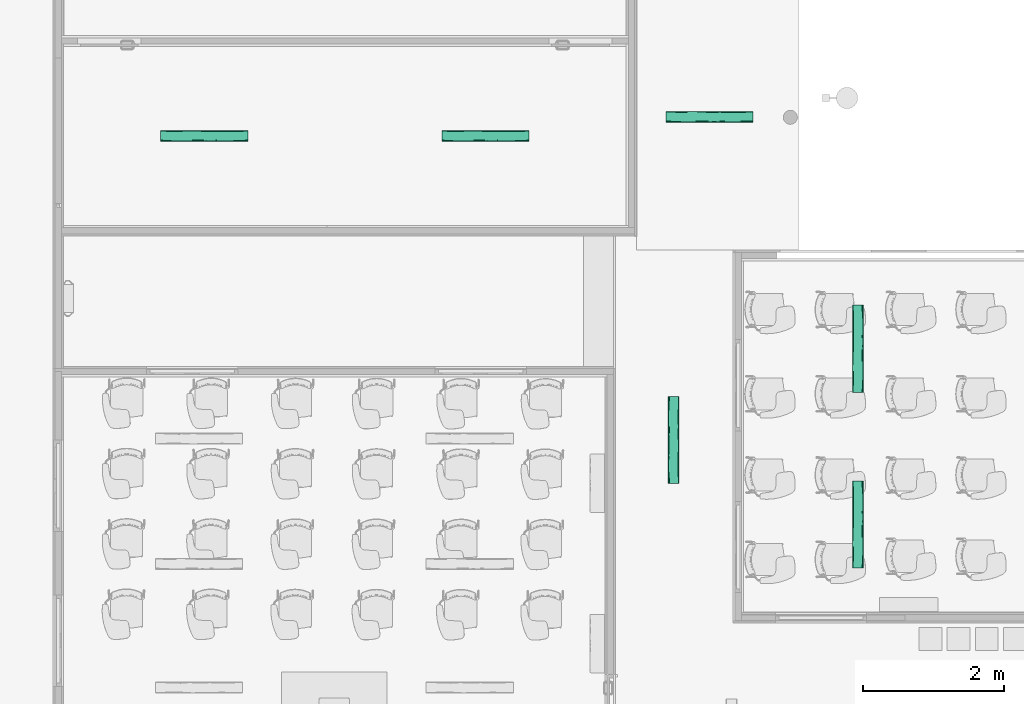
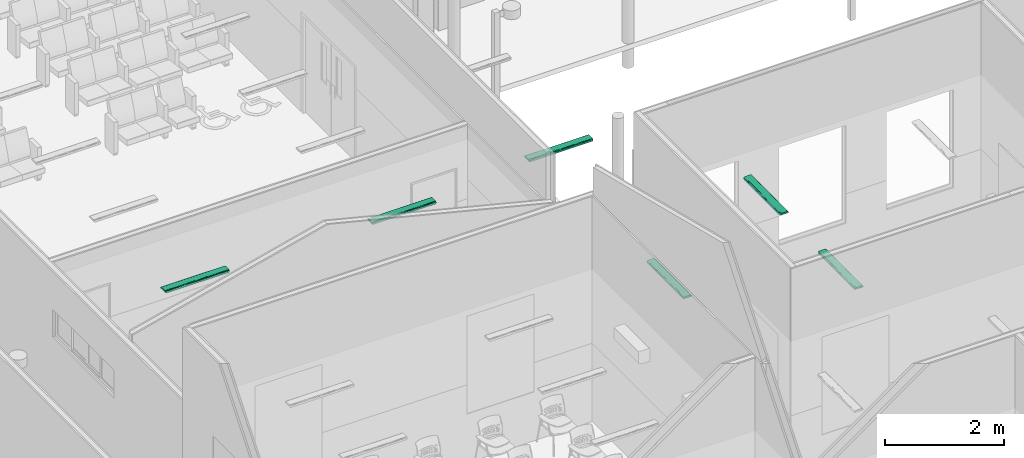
# One storey, part 54 of 155: 6 flow terminals.
"""IFC2X3 building model written with IfcOpenShell, lengths in metres."""

import ifcopenshell
import ifcopenshell.guid

model = None  # the IFC model being written
_history = None  # IfcOwnerHistory: only IFC2X3 demands one
_inside = {}  # id of a spatial element -> (the spatial element, [elements in it])
_under = {}  # id of a project, library or spatial element -> (it, [spatial elements below it])
_declared = {}  # id of a project -> (the project, [libraries it declares])
_typed = {}  # id of a type object -> (the type object, [elements of that type])
_made_of = {}  # id of a material, layer set ... -> (it, [elements and type objects made of it])


def new_model(schema):
    """Start an empty IFC model of exactly this schema.

    Asked for "IFC4X3", IfcOpenShell would pick the latest addendum, in which some entities
    have other attributes; the version numbers below select the first issue.
    IFC2X3 requires an IfcOwnerHistory on every rooted entity: one is made here for all.
    """
    global model, _history
    if schema == "IFC4X3":
        model = ifcopenshell.file(schema_version=(4, 3, 0, 0))
    else:
        model = ifcopenshell.file(schema=schema)
    _inside.clear()
    _under.clear()
    _declared.clear()
    _typed.clear()
    _made_of.clear()
    _history = None
    if model.schema == "IFC2X3":
        org = make("IfcOrganization", Name="unknown")
        user = make(
            "IfcPersonAndOrganization",
            ThePerson=make("IfcPerson", FamilyName="unknown"),
            TheOrganization=org,
        )
        app = make(
            "IfcApplication",
            ApplicationDeveloper=org,
            Version="unknown",
            ApplicationFullName="unknown",
            ApplicationIdentifier="unknown",
        )
        _history = make(
            "IfcOwnerHistory",
            OwningUser=user,
            OwningApplication=app,
            ChangeAction="ADDED",
            CreationDate=0,
        )
    return model


def make(cls, **values):
    """One entity of the class cls with the attributes given. An attribute that is None is left unset."""
    return model.create_entity(
        cls, **{name: value for name, value in values.items() if value is not None}
    )


def entity(cls, *values):
    """Any entity or typed value of the class cls, its attributes in the order of the schema. None: left unset."""
    e = model.create_entity(cls)
    for i, value in enumerate(values):
        if value is not None:
            e[i] = value
    return e


def rooted(cls, **values):
    """An entity with a GlobalId (a new one), such as an element, a storey or a relation."""
    return make(cls, GlobalId=ifcopenshell.guid.new(), OwnerHistory=_history, **values)


def si_unit(unit_type, name, prefix=None):
    """IfcSIUnit, for example si_unit("LENGTHUNIT", "METRE", prefix="MILLI")."""
    return make("IfcSIUnit", UnitType=unit_type, Prefix=prefix, Name=name)


def converted_unit(unit_type, name, factor, base, dimensions=None, offset=None):
    """IfcConversionBasedUnit, such as the inch: factor (a typed value) times the base unit."""
    return make(
        "IfcConversionBasedUnit"
        if offset is None
        else "IfcConversionBasedUnitWithOffset",
        ConversionOffset=offset,
        Dimensions=None
        if dimensions is None
        else entity("IfcDimensionalExponents", *dimensions),
        UnitType=unit_type,
        Name=name,
        ConversionFactor=make(
            "IfcMeasureWithUnit", ValueComponent=factor, UnitComponent=base
        ),
    )


def derived_unit(unit_type, elements):
    """IfcDerivedUnit: a product of units, each with its exponent."""
    return make(
        "IfcDerivedUnit",
        Elements=[
            make("IfcDerivedUnitElement", Unit=unit, Exponent=power)
            for unit, power in elements
        ],
        UnitType=unit_type,
    )


def assignment(units):
    """IfcUnitAssignment: the units of a project."""
    return None if units is None else make("IfcUnitAssignment", Units=units)


def point(xyz):
    """IfcCartesianPoint."""
    return None if xyz is None else make("IfcCartesianPoint", Coordinates=xyz)


def direction(xyz):
    """IfcDirection."""
    return None if xyz is None else make("IfcDirection", DirectionRatios=xyz)


def frame(location, z_axis=None, x_axis=None):
    """IfcAxis2Placement3D, a coordinate frame: its origin and axes. An axis left out is left unset."""
    return make(
        "IfcAxis2Placement3D",
        Location=point(location),
        Axis=direction(z_axis),
        RefDirection=direction(x_axis),
    )


def origin():
    """The frame at (0, 0, 0) with its axes left unset."""
    return frame((0.0, 0.0, 0.0))


def place(relative_to, where):
    """IfcLocalPlacement: puts the frame where relative to a parent placement (None: the world)."""
    return make(
        "IfcLocalPlacement", PlacementRelTo=relative_to, RelativePlacement=where
    )


def context(
    kind, dimensions, precision=None, world=None, true_north=None, identifier=None
):
    """IfcGeometricRepresentationContext, for example the 3D "Model" context."""
    return make(
        "IfcGeometricRepresentationContext",
        ContextIdentifier=identifier,
        ContextType=kind,
        CoordinateSpaceDimension=dimensions,
        Precision=precision,
        WorldCoordinateSystem=world,
        TrueNorth=true_north,
    )


def subcontext(parent, identifier, kind, view, scale=None):
    """IfcGeometricRepresentationSubContext, for example "Body" below "Model"."""
    return make(
        "IfcGeometricRepresentationSubContext",
        ContextIdentifier=identifier,
        ContextType=kind,
        ParentContext=parent,
        TargetScale=scale,
        TargetView=view,
    )


def project(units=None, contexts=None):
    """IfcProject with its units and contexts."""
    return rooted(
        "IfcProject",
        Name="project",
        RepresentationContexts=contexts,
        UnitsInContext=assignment(units),
    )


def spatial(cls, under=None, at=None, **own):
    """A site, building, storey or space (cls), placed at a placement, below another one or the project."""
    s = rooted(cls, ObjectPlacement=at, **own)
    if under is not None:
        _under.setdefault(under.id(), (under, []))[1].append(s)
    return s


def faces_of(points, faces, orient=None, outer=None):
    """IfcFace entities. A face is a list of loops; a loop is a list of indices into points, from 0.

    orient and outer hold one flag for each loop. By default every Orientation is true, the
    first loop of a face is its IfcFaceOuterBound and the others are IfcFaceBound.
    """
    made = []
    for i, loops in enumerate(faces):
        bounds = []
        for j, loop in enumerate(loops):
            is_outer = j == 0 if outer is None else outer[i][j]
            bounds.append(
                make(
                    "IfcFaceOuterBound" if is_outer else "IfcFaceBound",
                    Bound=make("IfcPolyLoop", Polygon=[points[k] for k in loop]),
                    Orientation=True if orient is None else orient[i][j],
                )
            )
        made.append(make("IfcFace", Bounds=bounds))
    return made


def faceted_brep(points, faces, orient=None, outer=None, voids=None):
    """IfcFacetedBrep: a solid bounded by flat faces; with voids (closed shells), ...WithVoids."""
    shared = [point(p) for p in points]
    hull = make("IfcClosedShell", CfsFaces=faces_of(shared, faces, orient, outer))
    if voids is None:
        return make("IfcFacetedBrep", Outer=hull)
    return make(
        "IfcFacetedBrepWithVoids",
        Outer=hull,
        Voids=[
            make(cls, CfsFaces=faces_of(shared, fs, o, b)) for cls, fs, o, b in voids
        ],
    )


def shape(context_of_items, identifier, shape_type, items):
    """IfcShapeRepresentation: the items that make up one representation, for example the "Body"."""
    return make(
        "IfcShapeRepresentation",
        ContextOfItems=context_of_items,
        RepresentationIdentifier=identifier,
        RepresentationType=shape_type,
        Items=items,
    )


def source(mapping_origin, context_of_items, identifier, shape_type, items):
    """IfcRepresentationMap: a shape defined once, which mapped items show again and again."""
    return make(
        "IfcRepresentationMap",
        MappingOrigin=mapping_origin,
        MappedRepresentation=shape(context_of_items, identifier, shape_type, items),
    )


def transform(
    local_origin,
    x_axis=None,
    y_axis=None,
    z_axis=None,
    scale=None,
    scale2=None,
    scale3=None,
    uniform=True,
):
    """IfcCartesianTransformationOperator3D, or its non-uniform kind. x_axis, y_axis, z_axis: its Axis1, 2, 3."""
    if uniform:
        return make(
            "IfcCartesianTransformationOperator3D",
            Axis1=direction(x_axis),
            Axis2=direction(y_axis),
            LocalOrigin=point(local_origin),
            Scale=scale,
            Axis3=direction(z_axis),
        )
    return make(
        "IfcCartesianTransformationOperator3DnonUniform",
        Axis1=direction(x_axis),
        Axis2=direction(y_axis),
        LocalOrigin=point(local_origin),
        Scale=scale,
        Axis3=direction(z_axis),
        Scale2=scale2,
        Scale3=scale3,
    )


def mapped(mapping_source, mapping_target):
    """IfcMappedItem: shows the shape of a source again, moved by a transform."""
    return make(
        "IfcMappedItem", MappingSource=mapping_source, MappingTarget=mapping_target
    )


def material(Name=None, Category=None):
    """IfcMaterial."""
    return make("IfcMaterial", Name=Name, Category=Category)


def material_list(materials):
    """IfcMaterialList."""
    return make("IfcMaterialList", Materials=materials)


def made_of(thing, what):
    """Note that an element or type object is made of a material, layer set ...; save() writes the relation."""
    if what is not None:
        _made_of.setdefault(what.id(), (what, []))[1].append(thing)
    return thing


def type_object(cls, material=None, **own):
    """A type object (cls), such as IfcWallType, which elements share."""
    return made_of(rooted(cls, **own), material)


def type_shapes(of_type, sources):
    """Give a type object the sources (RepresentationMaps) that its elements show as mapped items."""
    of_type.RepresentationMaps = sources


def element(
    cls,
    number,
    at=None,
    inside=None,
    cuts=None,
    type_object=None,
    material=None,
    context=None,
    identifier="Body",
    shape_type=None,
    held_by="IfcProductDefinitionShape",
    body=None,
    shapes=None,
    **own,
):
    """One element of the class cls, such as IfcWall. Its Tag is "e" and its number.

    at: its placement. inside: the storey or other place that contains it. cuts: it is an
    opening in that element (IfcRelVoidsElement). A single representation is given by context,
    identifier, shape_type and body (its items); several are given by shapes. held_by: the class
    of the entity that holds the representations. save() writes the other relations.
    """
    e = rooted(cls, Tag="e%d" % number, ObjectPlacement=at, **own)
    if body is not None:
        shapes = [shape(context, identifier, shape_type, body)]
    if shapes is not None:
        e.Representation = make(held_by, Representations=shapes)
    if inside is not None:
        _inside.setdefault(inside.id(), (inside, []))[1].append(e)
    if cuts is not None:
        rooted(
            "IfcRelVoidsElement", RelatingBuildingElement=cuts, RelatedOpeningElement=e
        )
    if type_object is not None:
        _typed.setdefault(type_object.id(), (type_object, []))[1].append(e)
    return made_of(e, material)


def aggregate(whole, parts):
    """IfcRelAggregates: a whole, such as a stair, and the parts it consists of."""
    return rooted("IfcRelAggregates", RelatingObject=whole, RelatedObjects=parts)


def save(model, path):
    """Write the relations noted so far, then the file.

    IfcRelAggregates (storeys below a building ...), IfcRelContainedInSpatialStructure (elements
    in a storey), IfcRelDefinesByType, IfcRelAssociatesMaterial and IfcRelDeclares: one each for
    every whole, place, type object, material and project.
    """
    for whole, parts in _under.values():
        aggregate(whole, parts)
    for where, things in _inside.values():
        rooted(
            "IfcRelContainedInSpatialStructure",
            RelatedElements=things,
            RelatingStructure=where,
        )
    for kind, things in _typed.values():
        rooted("IfcRelDefinesByType", RelatedObjects=things, RelatingType=kind)
    for what, things in _made_of.values():
        rooted("IfcRelAssociatesMaterial", RelatedObjects=things, RelatingMaterial=what)
    for by, libraries in _declared.values():
        rooted("IfcRelDeclares", RelatingContext=by, RelatedDefinitions=libraries)
    model.write(path)


model = new_model("IFC2X3")

# Units and contexts
model_context = context("Model", 3, precision=1e-05, world=origin(), true_north=direction((6.12303176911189e-17, 1.0)))
body_context = subcontext(model_context, "Body", "Model", "MODEL_VIEW")
ifc_project = project(units=[si_unit("LENGTHUNIT", "METRE"), si_unit("AREAUNIT", "SQUARE_METRE"), si_unit("VOLUMEUNIT", "CUBIC_METRE"), converted_unit("PLANEANGLEUNIT", "DEGREE", entity("IfcRatioMeasure", 0.0174532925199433), si_unit("PLANEANGLEUNIT", "RADIAN"), dimensions=[0, 0, 0, 0, 0, 0, 0]), si_unit("MASSUNIT", "GRAM", prefix="KILO"), derived_unit("MASSDENSITYUNIT", [(si_unit("MASSUNIT", "GRAM", prefix="KILO"), 1), (si_unit("LENGTHUNIT", "METRE"), -3)]), si_unit("TIMEUNIT", "SECOND"), si_unit("FREQUENCYUNIT", "HERTZ"), si_unit("THERMODYNAMICTEMPERATUREUNIT", "DEGREE_CELSIUS"), derived_unit("THERMALTRANSMITTANCEUNIT", [(si_unit("MASSUNIT", "GRAM", prefix="KILO"), 1), (si_unit("THERMODYNAMICTEMPERATUREUNIT", "KELVIN"), -1), (si_unit("TIMEUNIT", "SECOND"), -3)]), derived_unit("VOLUMETRICFLOWRATEUNIT", [(si_unit("LENGTHUNIT", "METRE"), 3), (si_unit("TIMEUNIT", "SECOND"), -1)]), si_unit("ELECTRICCURRENTUNIT", "AMPERE"), si_unit("ELECTRICVOLTAGEUNIT", "VOLT"), si_unit("POWERUNIT", "WATT"), si_unit("FORCEUNIT", "NEWTON", prefix="KILO"), si_unit("ILLUMINANCEUNIT", "LUX"), si_unit("LUMINOUSFLUXUNIT", "LUMEN"), si_unit("LUMINOUSINTENSITYUNIT", "CANDELA"), derived_unit("USERDEFINED", [(si_unit("MASSUNIT", "GRAM", prefix="KILO"), -1), (si_unit("LENGTHUNIT", "METRE"), -2), (si_unit("TIMEUNIT", "SECOND"), 3), (si_unit("LUMINOUSFLUXUNIT", "LUMEN"), 1)]), derived_unit("LINEARVELOCITYUNIT", [(si_unit("LENGTHUNIT", "METRE"), 1), (si_unit("TIMEUNIT", "SECOND"), -1)]), si_unit("PRESSUREUNIT", "PASCAL"), derived_unit("USERDEFINED", [(si_unit("LENGTHUNIT", "METRE"), -2), (si_unit("MASSUNIT", "GRAM", prefix="KILO"), 1), (si_unit("TIMEUNIT", "SECOND"), -2)])], contexts=[model_context])

# Site, building, storey
site_placement = place(None, frame((26.9889013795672, -17.5624287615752, 0.0)))
site = spatial("IfcSite", under=ifc_project, at=site_placement, Name="Default", CompositionType="ELEMENT")
building_placement = place(site_placement, origin())
building = spatial("IfcBuilding", under=site, at=building_placement, Name="C. C. L. Monsenhor Antônio Sampaio", CompositionType="ELEMENT")
storey_placement = place(building_placement, frame((0.0, 0.0, 1.19999999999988)))
storey = spatial("IfcBuildingStorey", under=building, at=storey_placement, Name="Nível 1.2", CompositionType="ELEMENT", Elevation=1.19999999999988)

# Flow terminals
ifc_material_1 = material(Name="glass - blue - t85")
ifc_material_2 = material(Name="metal - aluminium")
ifc_material_list_1 = material_list([ifc_material_1, ifc_material_2])
ifc_material_list_2 = material_list([ifc_material_1, ifc_material_2])
light_fixture_type = type_object("IfcLightFixtureType", Name="BCS460 W16L124 1xLED24/840 MLO-PC", PredefinedType="NOTDEFINED", material=ifc_material_list_2)
shared_shape = source(origin(), body_context, "Body", "Brep", [
    faceted_brep([(0.585000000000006, 0.0435000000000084, -0.0460000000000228), (0.585000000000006, -0.0434999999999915, -0.0460000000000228), (0.585000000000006, -0.0434999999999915, -0.0490000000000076), (0.585000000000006, 0.0435000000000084, -0.0490000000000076), (-0.584999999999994, 0.0435000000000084, -0.0460000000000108), (-0.584999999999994, 0.0435000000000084, -0.0489999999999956), (-0.584999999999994, -0.0434999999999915, -0.0489999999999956), (-0.584999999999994, -0.0434999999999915, -0.0460000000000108)], [[[0, 1, 2, 3]], [[4, 5, 6, 7]], [[3, 5, 4, 0]], [[2, 6, 5, 3]], [[1, 7, 6, 2]], [[0, 4, 7, 1]]]),
    faceted_brep([(-0.584999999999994, -0.0434999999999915, -0.0489999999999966), (0.585000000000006, -0.0434999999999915, -0.0490000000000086), (0.585000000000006, -0.0554999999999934, -0.0490000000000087), (0.417543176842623, -0.0554999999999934, -0.0490000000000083), (0.334912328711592, -0.0554999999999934, -0.0490000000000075), (0.209867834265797, -0.0554999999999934, -0.0490000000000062), (0.0848246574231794, -0.0554999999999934, -0.0490000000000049), (-0.0826321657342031, -0.0554999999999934, -0.0490000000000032), (-0.250087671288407, -0.0554999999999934, -0.0490000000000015), (-0.417543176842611, -0.0554999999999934, -0.0489999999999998), (-0.584999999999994, -0.0554999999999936, -0.0489999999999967), (-0.584999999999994, 0.0435000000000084, -0.0489999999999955), (-0.584999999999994, 0.0555000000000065, -0.0489999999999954), (-0.417543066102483, 0.0555000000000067, -0.0489999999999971), (-0.334913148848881, 0.0555000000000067, -0.048999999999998), (-0.209868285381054, 0.0555000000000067, -0.0489999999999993), (-0.0848248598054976, 0.0555000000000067, -0.0490000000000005), (0.0826306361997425, 0.0555000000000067, -0.0490000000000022), (0.250087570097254, 0.0555000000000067, -0.049000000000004), (0.417544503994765, 0.0555000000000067, -0.0490000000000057), (0.585000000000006, 0.0555000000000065, -0.0490000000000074), (0.585000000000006, 0.0435000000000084, -0.0490000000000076), (0.585000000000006, -0.0434999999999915, -0.0190000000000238), (0.585000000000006, 0.0435000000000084, -0.0190000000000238), (0.585000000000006, 0.0614528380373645, -0.0482162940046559), (0.585000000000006, 0.0670000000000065, -0.0459185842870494), (0.585000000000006, 0.0717634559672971, -0.0422634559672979), (0.585000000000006, 0.0754185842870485, -0.0375000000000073), (0.585000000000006, 0.077716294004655, -0.0319528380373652), (0.585000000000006, 0.0785000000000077, -0.0260000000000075), (0.585000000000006, 0.0785000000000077, 0.0), (0.585000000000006, -0.0784999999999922, 0.0), (0.585000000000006, -0.0784999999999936, -0.02600000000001), (0.585000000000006, -0.0777162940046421, -0.031952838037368), (0.585000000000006, -0.0754185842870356, -0.03750000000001), (0.585000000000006, -0.0717634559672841, -0.0422634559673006), (0.585000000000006, -0.0669999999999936, -0.0459185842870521), (0.585000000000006, -0.0614528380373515, -0.0482162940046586), (-0.584999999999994, 0.0435000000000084, -0.0190000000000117), (-0.584999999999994, -0.0434999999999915, -0.0190000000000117), (-0.584999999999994, -0.0614528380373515, -0.0482162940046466), (-0.584999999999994, -0.0669999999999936, -0.0459185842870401), (-0.584999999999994, -0.0717634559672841, -0.0422634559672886), (-0.584999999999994, -0.0754185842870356, -0.037499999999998), (-0.584999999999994, -0.0777162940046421, -0.031952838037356), (-0.584999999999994, -0.0784999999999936, -0.025999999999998), (-0.584999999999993, -0.0784999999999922, 0.0), (-0.584999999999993, 0.0785000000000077, 0.0), (-0.584999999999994, 0.0785000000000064, -0.0259999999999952), (-0.584999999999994, 0.077716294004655, -0.0319528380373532), (-0.584999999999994, 0.0754185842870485, -0.0374999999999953), (-0.584999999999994, 0.0717634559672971, -0.0422634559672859), (-0.584999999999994, 0.0670000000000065, -0.0459185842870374), (-0.584999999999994, 0.0614528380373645, -0.0482162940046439), (0.417543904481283, 0.0785000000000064, -0.0260000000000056), (0.334912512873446, 0.0785000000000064, -0.0260000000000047), (0.209868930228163, 0.0785000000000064, -0.0260000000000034), (0.0848250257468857, 0.0785000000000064, -0.0260000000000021), (-0.0826310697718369, 0.0785000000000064, -0.0260000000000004), (-0.250087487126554, 0.0785000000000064, -0.0259999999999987), (-0.417543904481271, 0.0785000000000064, -0.025999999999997), (-0.430283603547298, 0.073747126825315, -0.0400015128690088), (-0.39346878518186, 0.069501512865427, -0.0442471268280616), (-0.441987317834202, 0.0643017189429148, -0.0472492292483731), (-0.435801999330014, 0.0759760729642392, -0.0364752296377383), (0.43028360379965, 0.0695015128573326, -0.0442471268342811), (0.393468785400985, 0.0737471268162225, -0.0400015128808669), (-0.166359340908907, 0.0777768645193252, -0.0317220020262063), (-0.333815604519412, 0.078144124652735, -0.0300303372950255), (0.441987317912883, 0.0767492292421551, -0.0348017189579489), (0.376228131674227, 0.0780233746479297, -0.0306580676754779), (-0.0103058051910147, 0.0779837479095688, -0.0308457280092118), (0.147346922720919, 0.0778835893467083, -0.0312891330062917), (0.0846877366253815, 0.0752228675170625, -0.0378325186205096), (0.113930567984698, 0.0669406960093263, -0.0459527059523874), (0.259392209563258, 0.0628104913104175, -0.0478072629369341), (0.138751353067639, 0.0626656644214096, -0.0478552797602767), (-0.327642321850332, 0.0767492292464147, -0.0348017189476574), (-0.44845841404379, 0.0775260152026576, -0.0326222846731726), (0.274715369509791, 0.0767492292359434, -0.0348017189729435), (0.37104983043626, 0.0643017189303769, -0.0472492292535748), (0.333815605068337, 0.0596187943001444, -0.0486282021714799), (0.0893720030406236, 0.0707479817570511, -0.0432191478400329), (-0.0153938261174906, 0.0683034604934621, -0.0451068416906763), (-0.376228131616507, 0.0601580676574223, -0.0485233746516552), (0.0434325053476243, 0.059742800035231, -0.048605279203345), (0.218757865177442, 0.0695015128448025, -0.0442471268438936), (0.464656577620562, 0.0597129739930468, -0.0486108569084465), (0.199843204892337, 0.0732493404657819, -0.0406274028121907), (-0.274715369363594, 0.0643017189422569, -0.0472492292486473), (-0.115235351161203, 0.073747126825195, -0.0400015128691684), (-0.150791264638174, 0.070206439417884, -0.0436839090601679), (-0.272759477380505, 0.0724713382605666, -0.0415233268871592), (-0.00814072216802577, 0.0636892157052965, -0.0474927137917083), (-0.14734692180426, 0.0607891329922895, -0.0483835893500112), (-0.269938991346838, 0.0692956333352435, -0.0444032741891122), (-0.201904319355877, 0.0758204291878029, -0.0367740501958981), (-0.0663340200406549, 0.0763921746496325, -0.0356185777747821), (-0.139314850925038, 0.066006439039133, -0.046460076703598), (-0.430283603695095, -0.0695015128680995, -0.0442471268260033), (-0.393468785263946, -0.073747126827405, -0.0400015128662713), (-0.44198731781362, -0.0767492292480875, -0.0348017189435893), (-0.435801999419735, -0.06597522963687, -0.0464760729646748), (0.430283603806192, -0.0737471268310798, -0.0400015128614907), (0.393468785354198, -0.0695015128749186, -0.0442471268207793), (-0.166359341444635, -0.061222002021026, -0.0482768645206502), (-0.333815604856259, -0.0595303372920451, -0.0486441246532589), (0.441987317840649, -0.0643017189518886, -0.0472492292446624), (0.37622813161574, -0.0601580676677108, -0.0485233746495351), (-0.0103058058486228, -0.0603457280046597, -0.0484837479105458), (0.147346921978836, -0.0607891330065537, -0.0483835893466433), (0.0846877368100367, -0.0673325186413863, -0.0457228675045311), (0.113930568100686, -0.0754527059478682, -0.0374406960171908), (0.259392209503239, -0.0773072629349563, -0.0333104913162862), (0.138751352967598, -0.0773552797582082, -0.0331656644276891), (-0.327642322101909, -0.0643017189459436, -0.047249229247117), (-0.448458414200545, -0.062122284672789, -0.048026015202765), (-0.417543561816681, -0.0784999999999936, -0.0259999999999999), (0.274715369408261, -0.0643017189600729, -0.0472492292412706), (0.371049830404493, -0.0767492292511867, -0.0348017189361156), (0.333815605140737, -0.0781282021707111, -0.0301187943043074), (0.250087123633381, -0.0784999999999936, -0.0260000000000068), (0.0893720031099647, -0.0727191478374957, -0.041247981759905), (-0.0153938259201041, -0.074606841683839, -0.0388034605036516), (-0.376228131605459, -0.0780233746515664, -0.0306580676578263), (0.0826306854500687, -0.0784999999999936, -0.026000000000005), (-0.0848257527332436, -0.0784999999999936, -0.0260000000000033), (0.0434325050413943, -0.0781052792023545, -0.030242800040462), (0.417543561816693, -0.0784999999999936, -0.0260000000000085), (0.21875786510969, -0.0737471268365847, -0.0400015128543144), (0.464656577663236, -0.0781108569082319, -0.0302129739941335), (0.19984320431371, -0.0701274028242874, -0.0437493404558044), (-0.274715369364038, -0.0767492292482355, -0.0348017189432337), (-0.115235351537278, -0.0695015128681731, -0.0442471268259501), (-0.150791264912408, -0.0731839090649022, -0.0407064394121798), (-0.209869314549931, -0.0784999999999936, -0.026000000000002), (-0.334912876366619, -0.0784999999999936, -0.0260000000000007), (-0.272759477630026, -0.071023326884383, -0.0429713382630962), (-0.00814072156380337, -0.0769927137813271, -0.0341892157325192), (-0.147346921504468, -0.0778835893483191, -0.03128913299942), (-0.269938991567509, -0.0739032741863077, -0.0397956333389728), (-0.201904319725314, -0.0662740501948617, -0.0463204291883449), (-0.0663340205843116, -0.0651185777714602, -0.0468921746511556), (-0.139314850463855, -0.0759600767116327, -0.0365064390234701)], [[[0, 1, 2, 3, 4, 5, 6, 7, 8, 9, 10]], [[11, 12, 13, 14, 15, 16, 17, 18, 19, 20, 21]], [[22, 23, 21, 20, 24, 25, 26, 27, 28, 29, 30, 31, 32, 33, 34, 35, 36, 37, 2, 1]], [[12, 11, 38, 39, 0, 10, 40, 41, 42, 43, 44, 45, 46, 47, 48, 49, 50, 51, 52, 53]], [[47, 30, 29, 54, 55, 56, 57, 58, 59, 60, 48]], [[61, 51, 50]], [[62, 51, 61]], [[51, 62, 52]], [[62, 63, 52]], [[63, 53, 52]], [[61, 50, 64]], [[26, 65, 66]], [[26, 25, 65]], [[54, 29, 28]], [[67, 68, 59]], [[69, 70, 28]], [[71, 72, 73]], [[74, 75, 76]], [[26, 66, 27]], [[77, 78, 68]], [[13, 12, 53]], [[69, 27, 66]], [[79, 73, 72]], [[24, 80, 25]], [[70, 79, 72]], [[69, 28, 27]], [[75, 81, 18]], [[82, 74, 83]], [[63, 84, 53]], [[17, 16, 85]], [[19, 18, 81]], [[75, 74, 86]], [[87, 81, 80]], [[73, 79, 88]], [[70, 56, 55, 54]], [[80, 86, 65]], [[89, 63, 62]], [[90, 83, 91]], [[84, 15, 14, 13]], [[61, 77, 92]], [[59, 68, 60]], [[78, 49, 48]], [[20, 87, 24]], [[93, 76, 85]], [[66, 65, 86]], [[65, 25, 80]], [[62, 61, 92]], [[77, 64, 78]], [[92, 90, 91]], [[89, 94, 84]], [[28, 70, 54]], [[79, 69, 66]], [[53, 84, 13]], [[91, 95, 92]], [[96, 90, 92]], [[56, 72, 57]], [[70, 69, 79]], [[70, 72, 56]], [[67, 59, 58]], [[71, 67, 58]], [[71, 58, 57]], [[83, 90, 82]], [[88, 82, 73]], [[96, 97, 90]], [[71, 73, 97]], [[15, 94, 16]], [[84, 63, 89]], [[84, 94, 15]], [[98, 83, 93]], [[83, 98, 91]], [[18, 17, 76]], [[62, 92, 95]], [[98, 95, 91]], [[98, 94, 89]], [[74, 76, 93]], [[93, 94, 98]], [[85, 16, 94]], [[19, 81, 87]], [[80, 81, 75]], [[19, 87, 20]], [[24, 87, 80]], [[78, 48, 60]], [[77, 68, 67]], [[68, 78, 60]], [[49, 78, 50]], [[78, 64, 50]], [[64, 77, 61]], [[94, 93, 85]], [[85, 76, 17]], [[97, 67, 71]], [[72, 71, 57]], [[77, 67, 96]], [[90, 97, 73]], [[97, 96, 67]], [[77, 96, 92]], [[80, 75, 86]], [[76, 75, 18]], [[95, 89, 62]], [[89, 95, 98]], [[86, 74, 82]], [[83, 74, 93]], [[86, 82, 88]], [[73, 82, 90]], [[88, 66, 86]], [[66, 88, 79]], [[99, 42, 41]], [[100, 42, 99]], [[42, 100, 43]], [[100, 101, 43]], [[101, 44, 43]], [[99, 41, 102]], [[35, 103, 104]], [[35, 34, 103]], [[3, 2, 37]], [[105, 106, 8]], [[107, 108, 37]], [[109, 110, 111]], [[112, 113, 114]], [[35, 104, 36]], [[115, 116, 106]], [[117, 45, 44]], [[107, 36, 104]], [[118, 111, 110]], [[33, 119, 34]], [[108, 118, 110]], [[107, 37, 36]], [[113, 120, 121]], [[122, 112, 123]], [[101, 124, 44]], [[125, 126, 127]], [[128, 121, 120]], [[113, 112, 129]], [[130, 120, 119]], [[111, 118, 131]], [[108, 5, 4, 3]], [[119, 129, 103]], [[132, 101, 100]], [[133, 123, 134]], [[124, 135, 136, 117]], [[99, 115, 137]], [[8, 106, 9]], [[116, 40, 10]], [[32, 130, 33]], [[138, 114, 127]], [[104, 103, 129]], [[103, 34, 119]], [[100, 99, 137]], [[115, 102, 116]], [[137, 133, 134]], [[132, 139, 124]], [[37, 108, 3]], [[118, 107, 104]], [[44, 124, 117]], [[134, 140, 137]], [[141, 133, 137]], [[5, 110, 6]], [[108, 107, 118]], [[108, 110, 5]], [[105, 8, 7]], [[109, 105, 7]], [[109, 7, 6]], [[123, 133, 122]], [[131, 122, 111]], [[141, 142, 133]], [[109, 111, 142]], [[135, 139, 126]], [[124, 101, 132]], [[124, 139, 135]], [[143, 123, 138]], [[123, 143, 134]], [[121, 125, 114]], [[100, 137, 140]], [[143, 140, 134]], [[143, 139, 132]], [[112, 114, 138]], [[138, 139, 143]], [[127, 126, 139]], [[128, 120, 130]], [[119, 120, 113]], [[128, 130, 32]], [[33, 130, 119]], [[116, 10, 9]], [[115, 106, 105]], [[106, 116, 9]], [[40, 116, 41]], [[116, 102, 41]], [[102, 115, 99]], [[139, 138, 127]], [[127, 114, 125]], [[142, 105, 109]], [[110, 109, 6]], [[115, 105, 141]], [[133, 142, 111]], [[142, 141, 105]], [[115, 141, 137]], [[119, 113, 129]], [[114, 113, 121]], [[140, 132, 100]], [[132, 140, 143]], [[129, 112, 122]], [[123, 112, 138]], [[129, 122, 131]], [[111, 122, 133]], [[131, 104, 129]], [[104, 131, 118]], [[31, 46, 45, 117, 136, 135, 126, 125, 121, 128, 32]], [[46, 31, 30, 47]], [[21, 23, 38, 11]], [[22, 1, 0, 39]], [[23, 22, 39, 38]]]),
    faceted_brep([(0.597000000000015, 0.0785000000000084, 0.0), (0.602952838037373, 0.0785000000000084, -0.000783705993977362), (0.608500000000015, 0.0785000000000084, -0.00308141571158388), (0.613263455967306, 0.0785000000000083, -0.00673654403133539), (0.616918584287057, 0.0785000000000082, -0.011499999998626), (0.619216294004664, 0.0785000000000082, -0.017047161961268), (0.620000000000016, 0.0785000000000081, -0.0229999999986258), (0.620000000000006, 0.0785000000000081, -0.0259999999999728), (0.585000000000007, 0.0785000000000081, -0.0259999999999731), (0.585000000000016, 0.0785000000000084, 0.0), (0.619216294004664, -0.0784999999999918, -0.0170471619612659), (0.616918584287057, -0.0784999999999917, -0.0114999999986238), (0.613263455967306, -0.0784999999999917, -0.00673654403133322), (0.608500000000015, -0.0784999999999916, -0.00308141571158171), (0.602952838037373, -0.0784999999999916, -0.000783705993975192), (0.597000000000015, -0.0784999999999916, 0.0), (0.585000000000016, -0.0784999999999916, 0.0), (0.585000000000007, -0.0784999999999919, -0.0260000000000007), (0.620000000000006, -0.0784999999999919, -0.0260000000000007), (0.620000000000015, -0.0784999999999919, -0.0229999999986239), (0.620000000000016, 0.0669999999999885, -0.0459185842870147), (0.620000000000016, 0.0717634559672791, -0.0422634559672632), (0.620000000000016, 0.0754185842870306, -0.0374999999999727), (0.620000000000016, 0.0777162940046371, -0.0319528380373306), (0.620000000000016, -0.0777162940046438, -0.0319528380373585), (0.620000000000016, -0.0754185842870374, -0.0375000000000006), (0.620000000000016, -0.071763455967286, -0.0422634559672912), (0.620000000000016, -0.0669999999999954, -0.0459185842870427), (0.620000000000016, -0.0614528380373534, -0.0482162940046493), (0.620000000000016, -0.0554999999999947, -0.0489999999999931), (0.620000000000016, 0.0554999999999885, -0.0489999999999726), (0.620000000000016, 0.0614528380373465, -0.0482162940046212), (0.585000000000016, 0.0554999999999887, -0.048999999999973), (0.585000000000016, -0.0554999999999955, -0.0490000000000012), (0.585000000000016, -0.0614528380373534, -0.0482162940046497), (0.585000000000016, -0.0669999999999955, -0.0459185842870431), (0.585000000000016, -0.071763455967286, -0.0422634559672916), (0.585000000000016, -0.0754185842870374, -0.0375000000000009), (0.585000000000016, -0.0777162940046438, -0.0319528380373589), (0.585000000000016, 0.0777162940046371, -0.031952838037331), (0.585000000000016, 0.0754185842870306, -0.037499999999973), (0.585000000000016, 0.0717634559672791, -0.0422634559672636), (0.585000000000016, 0.0669999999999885, -0.0459185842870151), (0.585000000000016, 0.0614528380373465, -0.0482162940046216)], [[[0, 1, 2, 3, 4, 5, 6, 7, 8, 9]], [[10, 11, 12, 13, 14, 15, 16, 17, 18, 19]], [[20, 21, 22, 23, 7, 6, 19, 18, 24, 25, 26, 27, 28, 29, 30, 31]], [[32, 33, 34, 35, 36, 37, 38, 17, 16, 9, 8, 39, 40, 41, 42, 43]], [[16, 15, 0, 9]], [[11, 10, 5, 4]], [[12, 11, 4, 3]], [[6, 5, 10, 19]], [[14, 13, 2, 1]], [[15, 14, 1, 0]], [[2, 13, 12, 3]], [[43, 31, 30, 32]], [[43, 42, 20, 31]], [[21, 20, 42, 41]], [[23, 22, 40, 39]], [[7, 23, 39, 8]], [[40, 22, 21, 41]], [[29, 33, 32, 30]], [[25, 24, 38, 37]], [[26, 25, 37, 36]], [[17, 38, 24, 18]], [[28, 27, 35, 34]], [[29, 28, 34, 33]], [[35, 27, 26, 36]]]),
    faceted_brep([(-0.608499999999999, 0.0785000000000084, -0.00308141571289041), (-0.602952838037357, 0.0785000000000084, -0.000783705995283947), (-0.597, 0.0785000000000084, 0.0), (-0.584999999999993, 0.0785000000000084, 0.0), (-0.584999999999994, 0.0785000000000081, -0.0260000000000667), (-0.619999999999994, 0.0785000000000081, -0.0260000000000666), (-0.619999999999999, 0.0785000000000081, -0.0229999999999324), (-0.619216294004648, 0.0785000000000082, -0.0170471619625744), (-0.616918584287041, 0.0785000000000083, -0.0114999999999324), (-0.61326345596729, 0.0785000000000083, -0.00673654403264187), (-0.584999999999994, -0.0784999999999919, -0.0260000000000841), (-0.584999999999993, -0.0784999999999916, 0.0), (-0.596999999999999, -0.0784999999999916, 0.0), (-0.602952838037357, -0.0784999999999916, -0.000783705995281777), (-0.608499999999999, -0.0784999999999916, -0.00308141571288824), (-0.61326345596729, -0.0784999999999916, -0.0067365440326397), (-0.616918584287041, -0.0784999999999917, -0.0114999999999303), (-0.619216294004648, -0.0784999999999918, -0.0170471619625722), (-0.619999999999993, -0.0784999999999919, -0.0229999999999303), (-0.619999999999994, -0.0784999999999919, -0.0260000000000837), (-0.619999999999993, 0.0777162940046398, -0.0319528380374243), (-0.619999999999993, 0.0754185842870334, -0.0375000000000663), (-0.619999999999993, 0.071763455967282, -0.042263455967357), (-0.619999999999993, 0.0669999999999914, -0.0459185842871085), (-0.619999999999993, 0.0614528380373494, -0.048216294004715), (-0.619999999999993, 0.0554999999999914, -0.0490000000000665), (-0.619999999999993, -0.0554999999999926, -0.0490000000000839), (-0.619999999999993, -0.0614528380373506, -0.0482162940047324), (-0.619999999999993, -0.0669999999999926, -0.0459185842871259), (-0.619999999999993, -0.0717634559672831, -0.0422634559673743), (-0.619999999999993, -0.0754185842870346, -0.0375000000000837), (-0.619999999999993, -0.0777162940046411, -0.0319528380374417), (-0.584999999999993, 0.0614528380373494, -0.0482162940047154), (-0.584999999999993, 0.0669999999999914, -0.0459185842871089), (-0.584999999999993, 0.071763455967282, -0.0422634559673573), (-0.584999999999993, 0.0754185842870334, -0.0375000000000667), (-0.584999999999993, 0.0777162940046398, -0.0319528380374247), (-0.584999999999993, -0.0777162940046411, -0.0319528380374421), (-0.584999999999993, -0.0754185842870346, -0.0375000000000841), (-0.584999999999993, -0.0717634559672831, -0.0422634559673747), (-0.584999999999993, -0.0669999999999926, -0.0459185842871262), (-0.584999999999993, -0.0614528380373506, -0.0482162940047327), (-0.584999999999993, -0.0554999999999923, -0.0490000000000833), (-0.584999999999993, 0.0554999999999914, -0.0490000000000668)], [[[0, 1, 2, 3, 4, 5, 6, 7, 8, 9]], [[10, 11, 12, 13, 14, 15, 16, 17, 18, 19]], [[5, 20, 21, 22, 23, 24, 25, 26, 27, 28, 29, 30, 31, 19, 18, 6]], [[32, 33, 34, 35, 36, 4, 3, 11, 10, 37, 38, 39, 40, 41, 42, 43]], [[12, 11, 3, 2]], [[14, 13, 1, 0]], [[15, 14, 0, 9]], [[2, 1, 13, 12]], [[17, 16, 8, 7]], [[18, 17, 7, 6]], [[8, 16, 15, 9]], [[22, 21, 35, 34]], [[36, 20, 5, 4]], [[21, 20, 36, 35]], [[24, 23, 33, 32]], [[25, 24, 32, 43]], [[33, 23, 22, 34]], [[26, 25, 43, 42]], [[28, 27, 41, 40]], [[29, 28, 40, 39]], [[42, 41, 27, 26]], [[31, 30, 38, 37]], [[19, 31, 37, 10]], [[38, 30, 29, 39]]]),
])
type_shapes(light_fixture_type, [shared_shape])
flow_terminal_1_placement = place(storey_placement, frame((-7.99055229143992, -25.0280663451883, 2.8), z_axis=(0.0, 0.0, -1.0), x_axis=(-1.0, 0.0, 0.0)))
element("IfcFlowTerminal", 1, at=flow_terminal_1_placement, inside=storey, type_object=light_fixture_type, material=ifc_material_list_1, Name="63_PHILIPS_smartform-LED-surface_f:BCS460 W16L124 1xLED24/840 MLO-PC", ObjectType="BCS460 W16L124 1xLED24/840 MLO-PC", context=body_context, shape_type="MappedRepresentation", body=[
    mapped(shared_shape, transform((0.0, 0.0, 0.0), scale=1.0)),
])
ifc_material_list_3 = material_list([ifc_material_1, ifc_material_2])
flow_terminal_2_placement = place(storey_placement, frame((-11.990552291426, -25.0280663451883, 2.8), z_axis=(0.0, 0.0, -1.0), x_axis=(-1.0, 0.0, 0.0)))
element("IfcFlowTerminal", 2, at=flow_terminal_2_placement, inside=storey, type_object=light_fixture_type, material=ifc_material_list_3, Name="63_PHILIPS_smartform-LED-surface_f:BCS460 W16L124 1xLED24/840 MLO-PC", ObjectType="BCS460 W16L124 1xLED24/840 MLO-PC", context=body_context, shape_type="MappedRepresentation", body=[
    mapped(shared_shape, transform((0.0, 0.0, 0.0), scale=1.0)),
])

# Space
space_1_placement = place(storey_placement, origin())
space_1 = spatial("IfcSpace", under=storey, at=space_1_placement, Name="85", CompositionType="ELEMENT", InteriorOrExteriorSpace="INTERNAL")

# Flow terminals
ifc_material_list_4 = material_list([ifc_material_1, ifc_material_2])
flow_terminal_3_placement = place(space_1_placement, frame((-2.69555229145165, -28.0530663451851, 3.1), z_axis=(0.0, 0.0, -1.0), x_axis=(0.0, -1.0, 0.0)))
element("IfcFlowTerminal", 3, at=flow_terminal_3_placement, inside=space_1, type_object=light_fixture_type, material=ifc_material_list_4, Name="63_PHILIPS_smartform-LED-surface_f:BCS460 W16L124 1xLED24/840 MLO-PC", ObjectType="BCS460 W16L124 1xLED24/840 MLO-PC", context=body_context, shape_type="MappedRepresentation", body=[
    mapped(shared_shape, transform((0.0, 0.0, 0.0), scale=1.0)),
])
ifc_material_list_5 = material_list([ifc_material_1, ifc_material_2])
flow_terminal_4_placement = place(space_1_placement, frame((-2.69555229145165, -30.5530663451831, 3.1), z_axis=(0.0, 0.0, -1.0), x_axis=(0.0, -1.0, 0.0)))
element("IfcFlowTerminal", 4, at=flow_terminal_4_placement, inside=space_1, type_object=light_fixture_type, material=ifc_material_list_5, Name="63_PHILIPS_smartform-LED-surface_f:BCS460 W16L124 1xLED24/840 MLO-PC", ObjectType="BCS460 W16L124 1xLED24/840 MLO-PC", context=body_context, shape_type="MappedRepresentation", body=[
    mapped(shared_shape, transform((0.0, 0.0, 0.0), scale=1.0)),
])

# Space
space_2_placement = place(storey_placement, origin())
space_2 = spatial("IfcSpace", under=storey, at=space_2_placement, Name="101", CompositionType="ELEMENT", InteriorOrExteriorSpace="INTERNAL")

# Flow terminal
ifc_material_list_6 = material_list([ifc_material_1, ifc_material_2])
flow_terminal_5_placement = place(space_2_placement, frame((-5.31594393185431, -29.3508591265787, 3.1), z_axis=(0.0, 0.0, -1.0), x_axis=(0.0, -1.0, 0.0)))
element("IfcFlowTerminal", 5, at=flow_terminal_5_placement, inside=space_2, type_object=light_fixture_type, material=ifc_material_list_6, Name="63_PHILIPS_smartform-LED-surface_f:BCS460 W16L124 1xLED24/840 MLO-PC", ObjectType="BCS460 W16L124 1xLED24/840 MLO-PC", context=body_context, shape_type="MappedRepresentation", body=[
    mapped(shared_shape, transform((0.0, 0.0, 0.0), scale=1.0)),
])

# Space
space_3_placement = place(storey_placement, origin())
space_3 = spatial("IfcSpace", under=storey, at=space_3_placement, Name="102", CompositionType="ELEMENT", InteriorOrExteriorSpace="INTERNAL")

# Flow terminal
ifc_material_list_7 = material_list([ifc_material_1, ifc_material_2])
flow_terminal_6_placement = place(space_3_placement, frame((-4.80436447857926, -24.7571559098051, 2.8), z_axis=(0.0, 0.0, -1.0), x_axis=(-1.0, 0.0, 0.0)))
element("IfcFlowTerminal", 6, at=flow_terminal_6_placement, inside=space_3, type_object=light_fixture_type, material=ifc_material_list_7, Name="63_PHILIPS_smartform-LED-surface_f:BCS460 W16L124 1xLED24/840 MLO-PC", ObjectType="BCS460 W16L124 1xLED24/840 MLO-PC", context=body_context, shape_type="MappedRepresentation", body=[
    mapped(shared_shape, transform((0.0, 0.0, 0.0), scale=1.0)),
])

save(model, "model.ifc")
